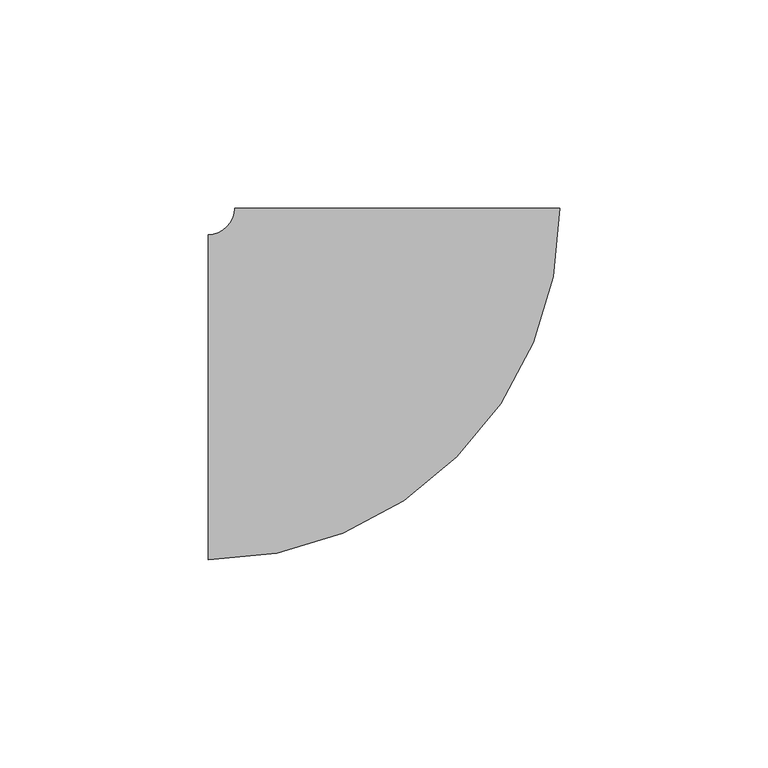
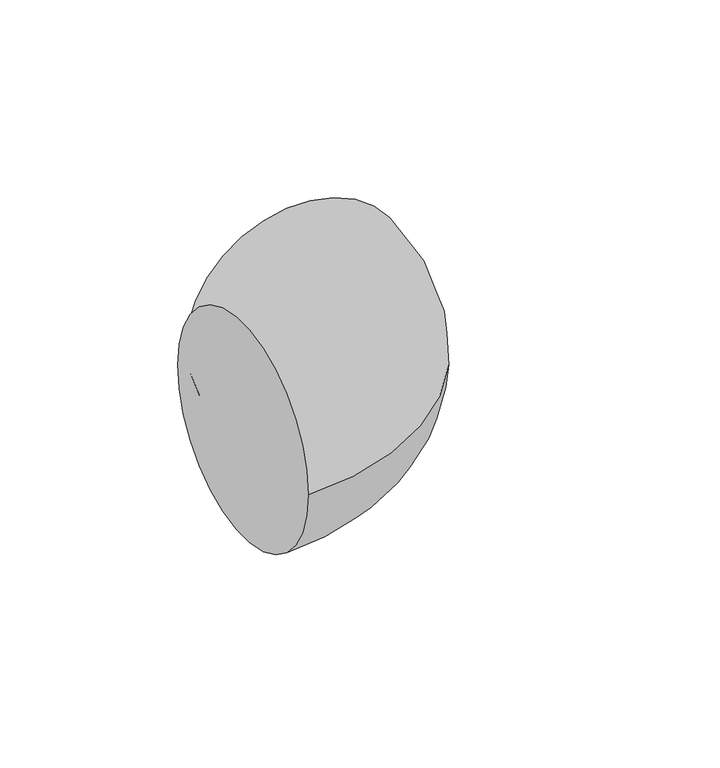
"""IFC4 building model written with IfcOpenShell, lengths in millimetres: pipe fitting geometry, M_Codo - Genérico : Estándar."""

from ifc_helpers import new_model, si_unit, point, frame, origin, place, context, project, spatial, circle_curve, ellipse_curve, trimmed, source, transform, mapped, element, save
from ifc_brep_helpers import plane_surface, revolved_surface, advanced_brep


def pipe_fitting_3a68447e(model_context):
    return source(origin(), model_context, "Body", "AdvancedBrep", [
        advanced_brep(
        [(-45.4375, -39.0875, 0.0), (-45.4375, 39.0875, 0.0), (39.0875, 45.4375, 0.0), (-39.0875, 45.4375, 0.0)],
        [
            (0, 1, circle_curve(frame((-45.4375, 0.0, 0.0), z_axis=(-1.0, 0.0, 0.0), x_axis=(0.0, 1.0, 0.0)), 39.0875)),
            (1, 0, circle_curve(frame((-45.4375, 0.0, 0.0), z_axis=(-1.0, 0.0, 0.0), x_axis=(0.0, 1.0, 0.0)), 39.0875)),
            (2, 3, circle_curve(frame((0.0, 45.4375, 0.0), z_axis=(0.0, 1.0, 0.0), x_axis=(-1.0, 0.0, 0.0)), 39.0875)),
            (3, 2, circle_curve(frame((0.0, 45.4375, 0.0), z_axis=(0.0, 1.0, 0.0), x_axis=(-1.0, 0.0, 0.0)), 39.0875)),
            (3, 1, circle_curve(frame((-45.4375, 45.4375, 0.0), z_axis=(0.0, 0.0, -1.0), x_axis=(0.0, -1.0, 0.0)), 6.35)),
            (0, 2, circle_curve(frame((-45.4375, 45.4375, 0.0), z_axis=(0.0, 0.0, 1.0), x_axis=(0.0, -1.0, 0.0)), 84.525)),
        ],
        [
            plane_surface(frame((-45.4375, 0.0, 0.0), z_axis=(-1.0, 0.0, 0.0), x_axis=(0.0, 0.0, 1.0))),
            plane_surface(frame((0.0, 45.4375, 0.0), z_axis=(0.0, 1.0, 0.0), x_axis=(0.0, 0.0, 1.0))),
            revolved_surface(trimmed(ellipse_curve(frame((-45.4375, 0.0, 0.0), z_axis=(-1.0, 0.0, 0.0), x_axis=(0.0, 1.0, 0.0)), 39.0875, 39.0875), [point((-45.4375, -39.0875, 0.0))], [point((-45.4375, 39.0875, 0.0))], True, "CARTESIAN"), (-45.4375, 45.4375, 0.0), (0.0, 0.0, 1.0)),
            revolved_surface(trimmed(ellipse_curve(frame((-45.4375, 0.0, 0.0), z_axis=(-1.0, 0.0, 0.0), x_axis=(0.0, 1.0, 0.0)), 39.0875, 39.0875), [point((-45.4375, 39.0875, 0.0))], [point((-45.4375, -39.0875, 0.0))], True, "CARTESIAN"), (-45.4375, 45.4375, 0.0), (0.0, 0.0, 1.0)),
        ],
        [
            (0, [[1, 2]]),
            (1, [[3, 4]]),
            (2, [[5, -1, 6, -4]]),
            (3, [[-6, -2, -5, -3]]),
        ],
    ),
    ])


if __name__ == "__main__":
    model = new_model("IFC4")
    model_context = context("Model", 3, world=origin())
    ifc_project = project(units=[si_unit("LENGTHUNIT", "METRE", prefix="MILLI")], contexts=[model_context])
    site = spatial("IfcSite", under=ifc_project)
    building = spatial("IfcBuilding", under=site)
    placement = place(None, origin())
    pipe_fitting_shape = pipe_fitting_3a68447e(model_context)
    element("IfcPipeFitting", 1, ObjectType="M_Codo - Genérico : Estándar", at=placement, inside=building, context=model_context, shape_type="MappedRepresentation", body=[
        mapped(pipe_fitting_shape, transform((0.0, 0.0, 0.0), x_axis=(1.0, 0.0, 0.0), y_axis=(0.0, 1.0, 0.0), z_axis=(0.0, 0.0, 1.0))),
    ])
    save(model, "model.ifc")
